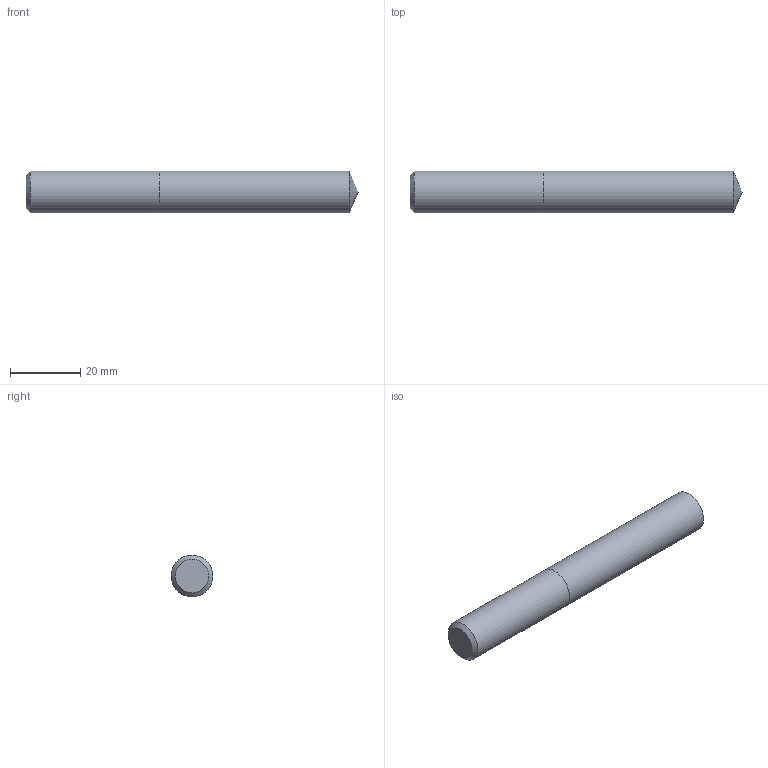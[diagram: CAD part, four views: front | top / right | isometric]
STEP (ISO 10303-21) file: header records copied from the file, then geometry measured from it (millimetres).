
FILE_DESCRIPTION (( 'STEP AP214' ), '1' );
FILE_NAME ('03-2429.STEP', '2022-06-03T07:39:38', ( 'USER' ), ( '' ), 'SwSTEP 2.0', 'SolidWorks 2018', '' );
FILE_SCHEMA (( 'AUTOMOTIVE_DESIGN' ));
Length unit declared in the file: inch
Products named in the file (1): 03-2429
Bounding box: 94.54 x 11.91 x 11.91 mm (x, y, z)
Volume: 10318.1 mm3; surface area: 3870.6 mm2
Topology: 2 solids, 2 shells, 7 faces, 11 edges, 7 vertices
Faces by surface type: plane 3, cylinder 2, cone 2
Full cylindrical faces by diameter (mm): 11.906 x2
Entity records: 214 total; most frequent: DIRECTION 26, CARTESIAN_POINT 18, AXIS2_PLACEMENT_3D 13, EDGE_LOOP 10, ORIENTED_EDGE 10, FACE_OUTER_BOUND 9, UNCERTAINTY_MEASURE_WITH_UNIT 7, DIMENSIONAL_EXPONENTS 7
